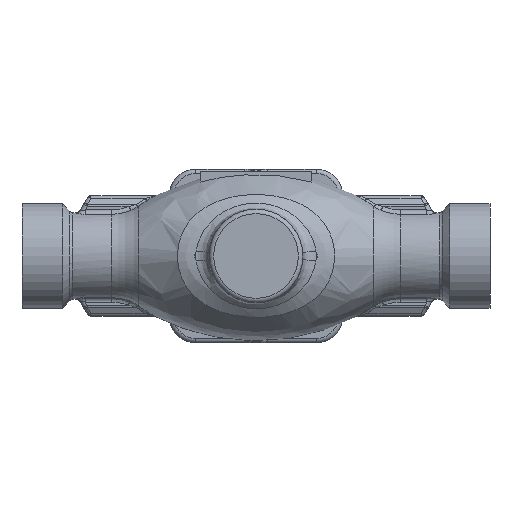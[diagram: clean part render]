
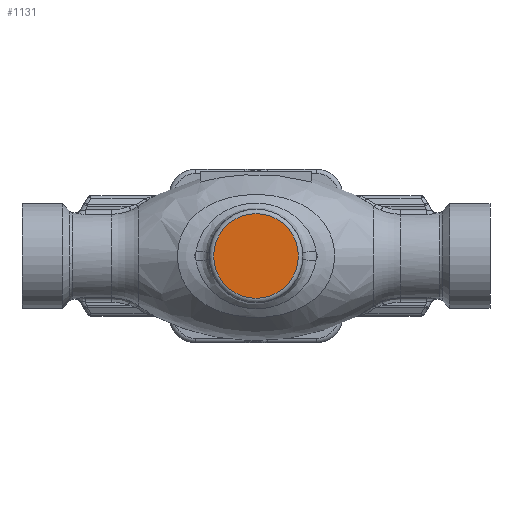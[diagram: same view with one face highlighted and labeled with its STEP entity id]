
A CAD part, front view. The second image highlights one B-rep face of the part: STEP entity #1131.
In plain terms, the highlighted planar face has unit normal (0, -1, 0).
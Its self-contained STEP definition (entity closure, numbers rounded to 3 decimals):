
#259=FACE_OUTER_BOUND('',#1918,.T.);
#1131=ADVANCED_FACE('',(#259),#1570,.F.);
#1570=PLANE('',#6713);
#1918=EDGE_LOOP('',(#3144));
#3144=ORIENTED_EDGE('',*,*,#5508,.T.);
#4925=VERTEX_POINT('',#10568);
#5508=EDGE_CURVE('',#4925,#4925,#6284,.T.);
#6284=CIRCLE('',#6712,19.);
#6712=AXIS2_PLACEMENT_3D('',#10567,#7632,#7633);
#6713=AXIS2_PLACEMENT_3D('',#10569,#7634,#7635);
#7632=DIRECTION('',(0.,-1.,0.));
#7633=DIRECTION('',(0.,0.,-1.));
#7634=DIRECTION('',(0.,1.,0.));
#7635=DIRECTION('',(0.,0.,-1.));
#10567=CARTESIAN_POINT('',(0.,-52.,0.));
#10568=CARTESIAN_POINT('',(0.,-52.,-19.));
#10569=CARTESIAN_POINT('',(0.,-52.,0.));
